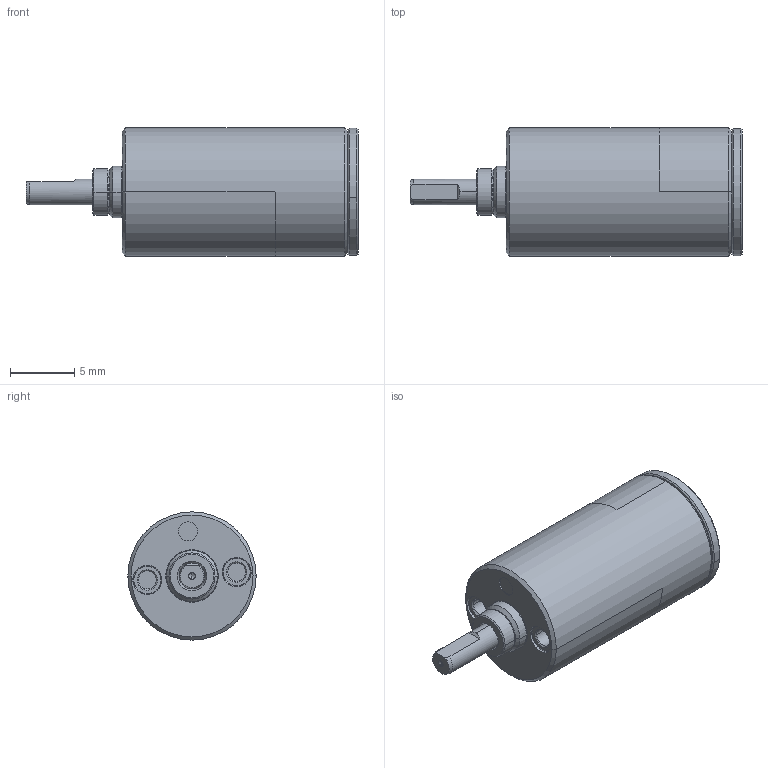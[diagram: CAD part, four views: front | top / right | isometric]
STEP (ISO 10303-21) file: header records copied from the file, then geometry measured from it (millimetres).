
FILE_DESCRIPTION((''),'2;1');
FILE_NAME('110308_GP10K_0_005NM_1ST_GL','2016-10-04T',('mmagvisi'),(''),'CREO PARAMETRIC BY PTC INC, 2016050','CREO PARAMETRIC BY PTC INC, 2016050','');
FILE_SCHEMA(('CONFIG_CONTROL_DESIGN'));
Length unit declared in the file: millimetre
Products named in the file (1): 110308_GP10K_0_005NM_1ST_GL
Bounding box: 25.9 x 10 x 10 mm (x, y, z)
Volume: 1446.9 mm3; surface area: 851.5 mm2
Topology: 1 solids, 1 shells, 77 faces, 167 edges, 103 vertices
Faces by surface type: cone 35, cylinder 20, plane 16, torus 6
Entity records: 2738 total; most frequent: DIRECTION 416, CARTESIAN_POINT 369, ORIENTED_EDGE 330, AXIS2_PLACEMENT_3D 178, PRESENTATION_STYLE_ASSIGNMENT 166, STYLED_ITEM 166, CURVE_STYLE 165, EDGE_CURVE 165
